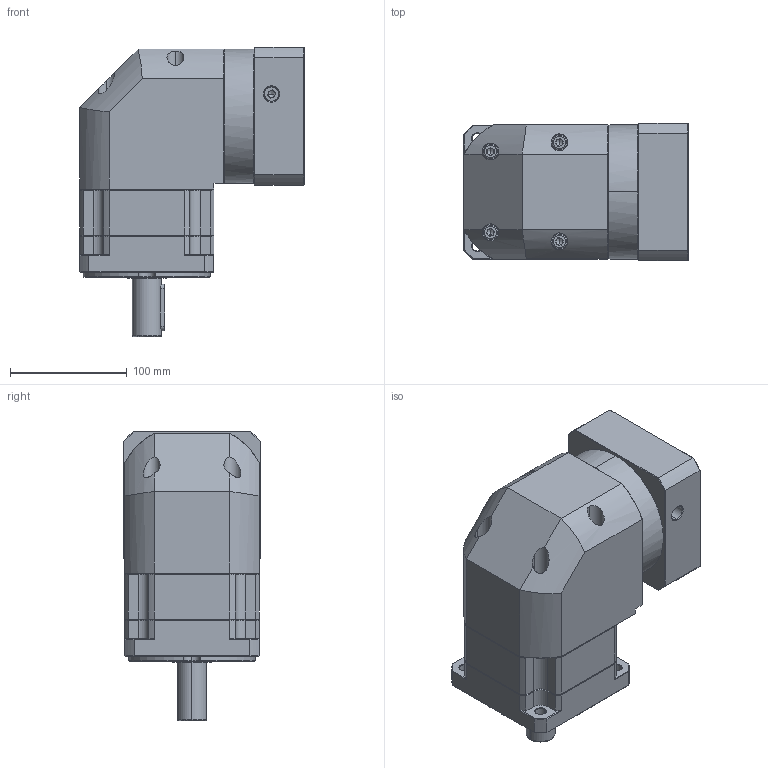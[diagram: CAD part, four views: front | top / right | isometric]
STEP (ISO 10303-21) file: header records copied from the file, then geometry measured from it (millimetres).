
FILE_DESCRIPTION (( 'STEP AP214' ), '1' );
FILE_NAME ('ZBR115A-D25-L1-P2-22-110-130-M8.step', '2023-08-26T12:30:44', ( '' ), ( '' ), 'SwSTEP 2.0', 'SolidWorks 2016', '' );
FILE_SCHEMA (( 'AUTOMOTIVE_DESIGN' ));
Length unit declared in the file: millimetre
Products named in the file (1): ZBR115A-D25-L1-P2-22-110-130-M8
Bounding box: 192.4 x 118 x 248 mm (x, y, z)
Volume: 2935272.8 mm3; surface area: 246646.2 mm2
Topology: 6 solids, 6 shells, 2380 faces, 6223 edges, 3947 vertices
Faces by surface type: plane 1139, cylinder 439, bspline 425, cone 369, torus 8
Entity records: 127937 total; most frequent: CARTESIAN_POINT 46895, ORIENTED_EDGE 12386, DIRECTION 9760, EDGE_CURVE 6193, LINE 3990, VECTOR 3990, VERTEX_POINT 3947, AXIS2_PLACEMENT_3D 2885
